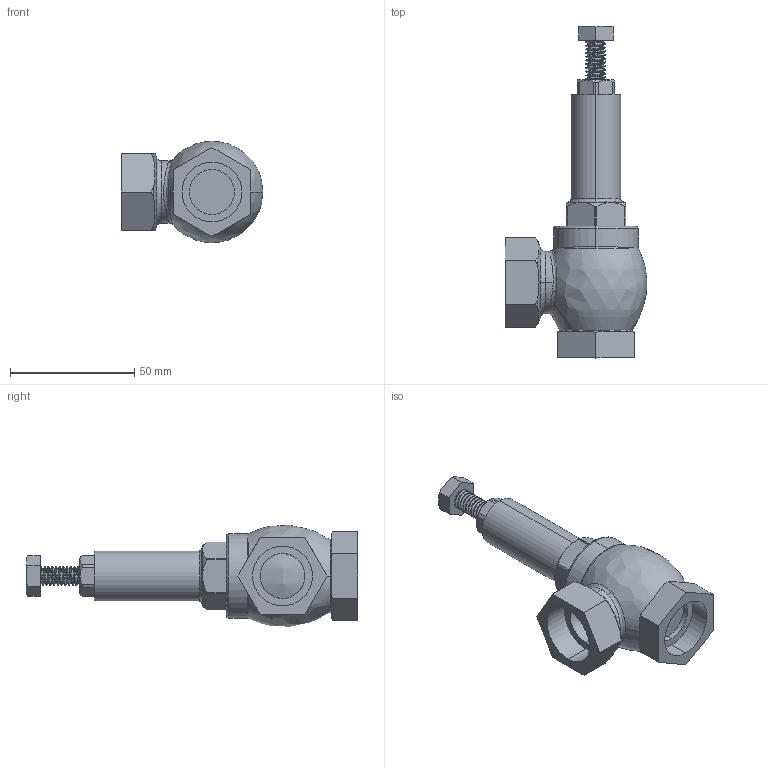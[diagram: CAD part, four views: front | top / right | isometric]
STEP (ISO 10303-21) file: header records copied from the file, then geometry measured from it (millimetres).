
FILE_DESCRIPTION (( 'STEP AP214' ), '1' );
FILE_NAME ('Êëàïàí ïðåäîõðàíèòåëüíûé TSV-20.STEP', '2026-10-08T06:34:57', ( '' ), ( '' ), 'SwSTEP 2.0', 'SolidWorks 2023', '' );
FILE_SCHEMA (( 'AUTOMOTIVE_DESIGN' ));
Length unit declared in the file: millimetre
Products named in the file (1): Клапан предохранительный TSV-20
Bounding box: 56.99 x 133.3 x 40.84 mm (x, y, z)
Volume: 78451.5 mm3; surface area: 17703.4 mm2
Topology: 1 solids, 1 shells, 150 faces, 399 edges, 260 vertices
Faces by surface type: cylinder 50, plane 44, cone 35, bspline 13, torus 8
Entity records: 10932 total; most frequent: CARTESIAN_POINT 7470, ORIENTED_EDGE 798, DIRECTION 640, EDGE_CURVE 399, VERTEX_POINT 260, AXIS2_PLACEMENT_3D 252, EDGE_LOOP 159, ADVANCED_FACE 150
